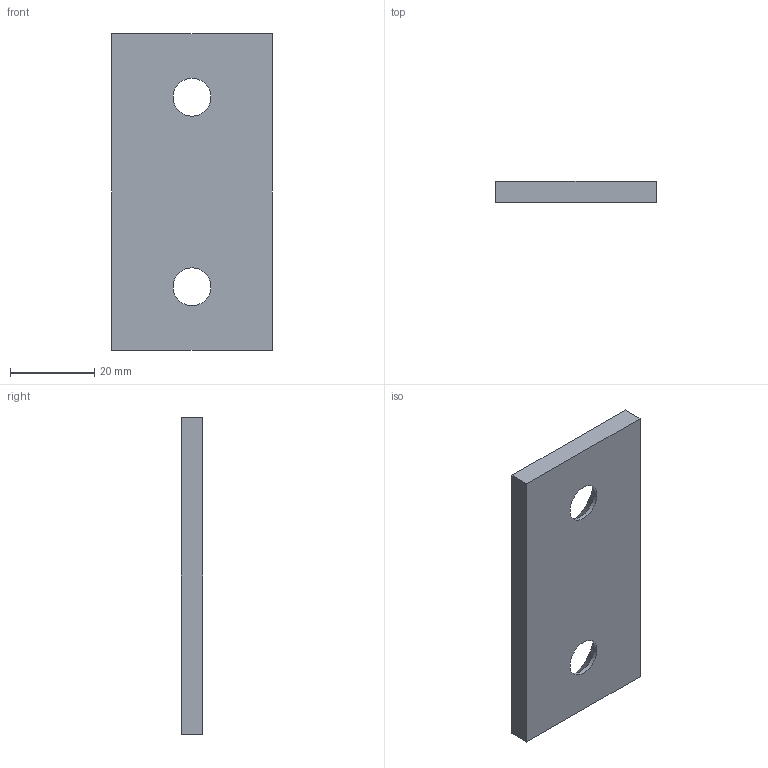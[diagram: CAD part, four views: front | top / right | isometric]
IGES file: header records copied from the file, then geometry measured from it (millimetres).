
Start section: Data from Parasolid IGES Translator 20.0.26, Copyright(c) 2006 Siemens P LM Software. All Rights Reserved.
Global section: file name: P605-01-038-075.igs; native system: By Siemens PLM Incorporated; preprocessor: XPlus GENERIC/IGES 20.0.26; author: Noname; organization: Noname; date: 20190705.145808; units: millimetre
Bounding box: 38 x 5 x 75 mm (x, y, z)
Surface area: 6767.4 mm2 (no closed solid volume)
Topology: 0 solids, 0 shells, 10 faces, 44 edges, 41 vertices
Faces by surface type: extrusion 6, revolution 4
